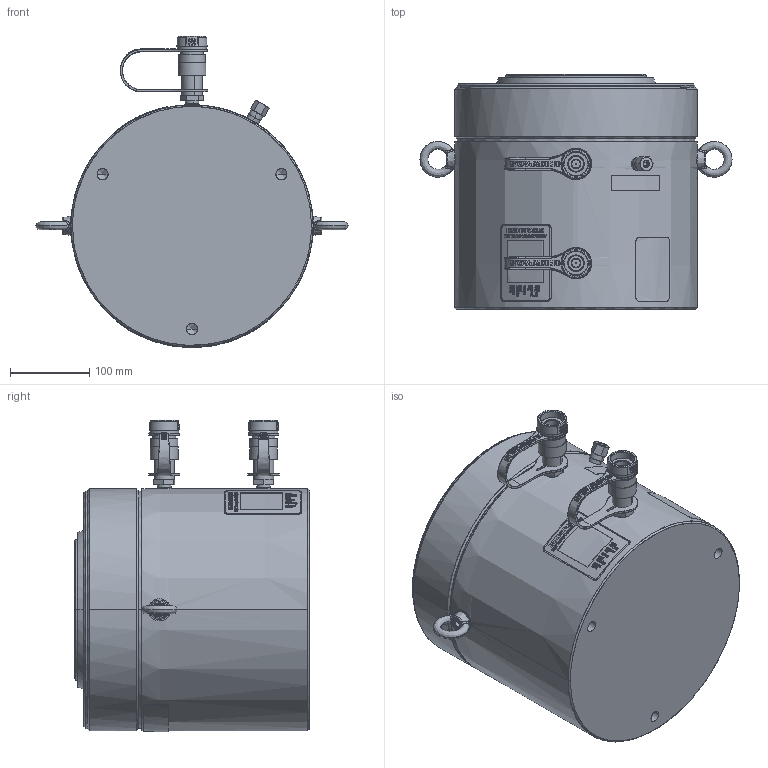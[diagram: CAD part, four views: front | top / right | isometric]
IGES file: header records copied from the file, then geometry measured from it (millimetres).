
Start section:  PTC IGES file: hcr3002.igs
Global section: file name: hcr3002.igs; native system: Creo Parametric by PTC Inc.; preprocessor: 2015290; author: Akhilesh.Subrahmanya; organization: Unknown; date: 20170622.125144; units: millimetre
Bounding box: 393 x 296 x 391.69 mm (x, y, z)
Surface area: 812927.7 mm2 (no closed solid volume)
Topology: 0 solids, 0 shells, 883 faces, 7428 edges, 7415 vertices
Faces by surface type: revolution 547, bspline 326, extrusion 10
